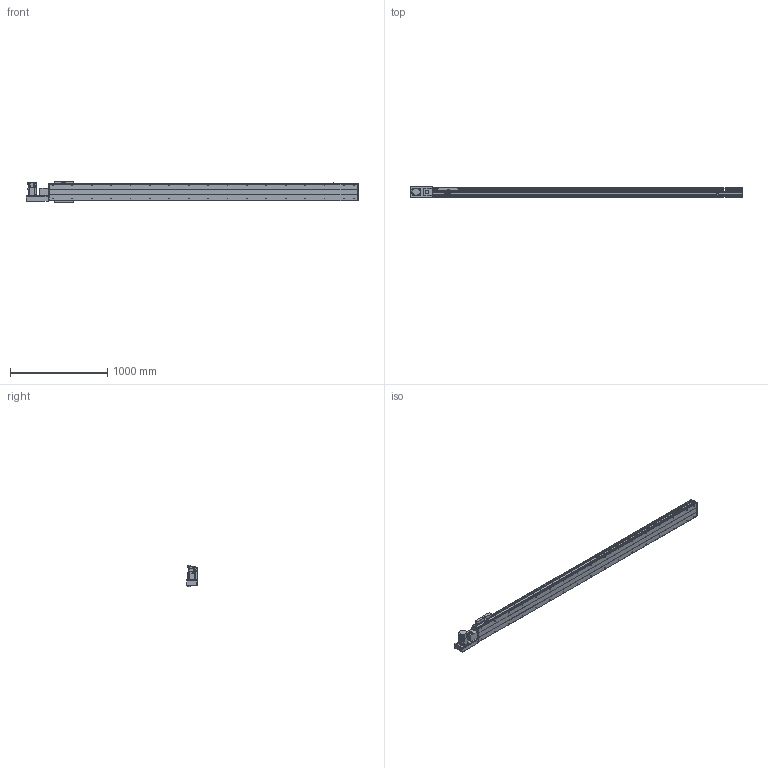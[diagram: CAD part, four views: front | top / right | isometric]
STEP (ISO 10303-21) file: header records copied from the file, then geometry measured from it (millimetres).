
FILE_DESCRIPTION(/* description */ ('STEP AP214'),/* implementation_level */ '2;1');
FILE_NAME(/* name */ 'PBS200-P40-S2800-L-T75-C1-N(0)',/* time_stamp */ '2022-06-11T07:51:16+02:00',/* author */ ('License CC BY-ND 4.0'),/* organization */ ('CADENAS'),/* preprocessor_version */ 'ST-DEVELOPER v18.102',/* originating_system */ 'PARTsolutions',/* authorisation */ ' ');
FILE_SCHEMA (('AUTOMOTIVE_DESIGN {1 0 10303 214 3 1 1}'));
Length unit declared in the file: millimetre
Products named in the file (7): PBS200-P40-S2800-L-T75-C1-N(0); PBS200_sensor; PBS200_plant; PBS200_sliser; T75-p1; PBS200T-L_motors; PBS200-S2800()_body
Assembly tree (8 placements, depth 2):
  PBS200-P40-S2800-L-T75-C1-N(0)
    PBS200_sensor  x3
    PBS200_plant
    PBS200_sliser
    T75-p1
    PBS200T-L_motors
    PBS200-S2800()_body
Bounding box: 3422 x 109 x 221 mm (x, y, z)
Volume: 22477115.3 mm3; surface area: 3591786.5 mm2
Topology: 8 solids, 8 shells, 974 faces, 2464 edges, 1602 vertices
Faces by surface type: plane 592, cylinder 316, cone 66
Full cylindrical faces by diameter (mm): 2.459 x6, 3.242 x4, 4.5 x6, 4.917 x4, 5 x6, 6 x7, 6.6 x8, 6.647 x38, 8 x6, 10 x4, 12 x8, 38 x2, 40 x1, 70 x1
Entity records: 25661 total; most frequent: DIRECTION 4543, CARTESIAN_POINT 4354, ORIENTED_EDGE 4090, EDGE_CURVE 2045, AXIS2_PLACEMENT_3D 1615, VERTEX_POINT 1426, LINE 1313, VECTOR 1313
